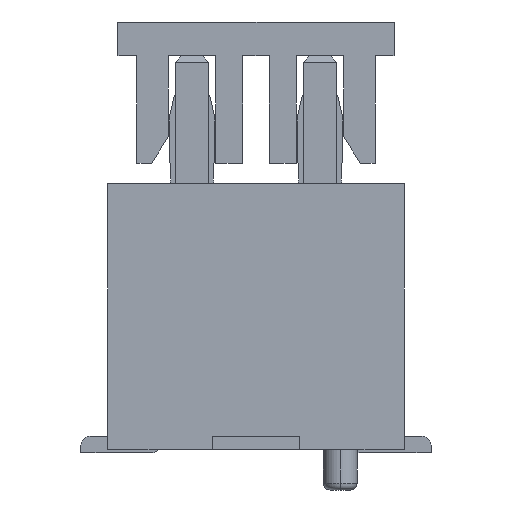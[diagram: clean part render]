
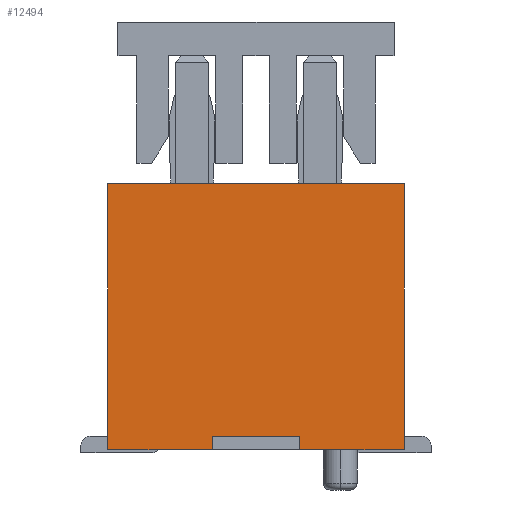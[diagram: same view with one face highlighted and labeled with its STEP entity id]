
A CAD part, left-side view. The second image highlights one B-rep face of the part: STEP entity #12494.
In plain terms, the highlighted planar face has unit normal (-1, 0, 0).
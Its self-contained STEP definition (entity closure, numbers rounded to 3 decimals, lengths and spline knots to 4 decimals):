
#3763 = DIRECTION ( 'NONE',  ( 0., 0., -1. ) ) ;
#7199 = CARTESIAN_POINT ( 'NONE',  ( -4.95, 0.65, 0.2 ) ) ;
#8090 = EDGE_CURVE ( 'NONE', #102275, #111845, #16602, .T. ) ;
#11107 = ORIENTED_EDGE ( 'NONE', *, *, #156515, .F. ) ;
#12494 = ADVANCED_FACE ( 'NONE', ( #159997 ), #39311, .F. ) ;
#14469 = DIRECTION ( 'NONE',  ( 0., 1., 0. ) ) ;
#15752 = CARTESIAN_POINT ( 'NONE',  ( -4.95, 2.2, 1.975 ) ) ;
#16602 = LINE ( 'NONE', #15752, #74517 ) ;
#19216 = CARTESIAN_POINT ( 'NONE',  ( -4.95, 0., 3.95 ) ) ;
#19660 = VERTEX_POINT ( 'NONE', #103955 ) ;
#25027 = EDGE_CURVE ( 'NONE', #111845, #35308, #141709, .T. ) ;
#34943 = EDGE_CURVE ( 'NONE', #35308, #122205, #151258, .T. ) ;
#35308 = VERTEX_POINT ( 'NONE', #149311 ) ;
#39311 = PLANE ( 'NONE',  #112086 ) ;
#39944 = EDGE_CURVE ( 'NONE', #19660, #102275, #150385, .T. ) ;
#41072 = CARTESIAN_POINT ( 'NONE',  ( -4.95, 0., 0. ) ) ;
#43400 = ORIENTED_EDGE ( 'NONE', *, *, #8090, .F. ) ;
#44579 = DIRECTION ( 'NONE',  ( 0., 1., 0. ) ) ;
#46377 = DIRECTION ( 'NONE',  ( 0., 1., 0. ) ) ;
#46810 = VERTEX_POINT ( 'NONE', #73108 ) ;
#52749 = ORIENTED_EDGE ( 'NONE', *, *, #34943, .F. ) ;
#53398 = CARTESIAN_POINT ( 'NONE',  ( -4.95, 2.2, 3.95 ) ) ;
#54240 = ORIENTED_EDGE ( 'NONE', *, *, #25027, .F. ) ;
#54540 = ORIENTED_EDGE ( 'NONE', *, *, #72554, .T. ) ;
#72554 = EDGE_CURVE ( 'NONE', #19660, #170908, #109969, .T. ) ;
#73108 = CARTESIAN_POINT ( 'NONE',  ( -4.95, -0.65, 0.2 ) ) ;
#73794 = DIRECTION ( 'NONE',  ( 0., -1., 0. ) ) ;
#74517 = VECTOR ( 'NONE', #110575, 1000. ) ;
#80564 = VECTOR ( 'NONE', #73794, 1000. ) ;
#81384 = CARTESIAN_POINT ( 'NONE',  ( -4.95, 0.65, 0.1 ) ) ;
#82202 = DIRECTION ( 'NONE',  ( 0., 1., 0. ) ) ;
#83368 = CARTESIAN_POINT ( 'NONE',  ( -4.95, 2.1, 0. ) ) ;
#84238 = EDGE_LOOP ( 'NONE', ( #108813, #54540, #141268, #102610, #11107, #52749, #54240, #43400 ) ) ;
#91552 = VERTEX_POINT ( 'NONE', #150153 ) ;
#94345 = VECTOR ( 'NONE', #138469, 1000. ) ;
#94807 = CARTESIAN_POINT ( 'NONE',  ( -4.95, 2.2, 0. ) ) ;
#95555 = VECTOR ( 'NONE', #3763, 1000. ) ;
#101549 = VECTOR ( 'NONE', #122447, 1000. ) ;
#102275 = VERTEX_POINT ( 'NONE', #94807 ) ;
#102610 = ORIENTED_EDGE ( 'NONE', *, *, #145972, .F. ) ;
#103955 = CARTESIAN_POINT ( 'NONE',  ( -4.95, 0.65, 0. ) ) ;
#105169 = VECTOR ( 'NONE', #46377, 1000. ) ;
#108813 = ORIENTED_EDGE ( 'NONE', *, *, #39944, .F. ) ;
#109934 = LINE ( 'NONE', #122416, #94345 ) ;
#109969 = LINE ( 'NONE', #81384, #101549 ) ;
#110575 = DIRECTION ( 'NONE',  ( 0., 0., 1. ) ) ;
#111845 = VERTEX_POINT ( 'NONE', #53398 ) ;
#112086 = AXIS2_PLACEMENT_3D ( 'NONE', #41072, #150102, #82202 ) ;
#113404 = CARTESIAN_POINT ( 'NONE',  ( -4.95, 0., 0.2 ) ) ;
#122205 = VERTEX_POINT ( 'NONE', #154014 ) ;
#122416 = CARTESIAN_POINT ( 'NONE',  ( -4.95, -0.65, 0.1 ) ) ;
#122447 = DIRECTION ( 'NONE',  ( 0., 0., 1. ) ) ;
#136658 = VECTOR ( 'NONE', #44579, 1000. ) ;
#136980 = CARTESIAN_POINT ( 'NONE',  ( -4.95, -2.2, 1.975 ) ) ;
#138469 = DIRECTION ( 'NONE',  ( 0., 0., 1. ) ) ;
#141268 = ORIENTED_EDGE ( 'NONE', *, *, #144934, .F. ) ;
#141709 = LINE ( 'NONE', #19216, #80564 ) ;
#144934 = EDGE_CURVE ( 'NONE', #46810, #170908, #167018, .T. ) ;
#145972 = EDGE_CURVE ( 'NONE', #91552, #46810, #109934, .T. ) ;
#149311 = CARTESIAN_POINT ( 'NONE',  ( -4.95, -2.2, 3.95 ) ) ;
#150102 = DIRECTION ( 'NONE',  ( 1., 0., 0. ) ) ;
#150153 = CARTESIAN_POINT ( 'NONE',  ( -4.95, -0.65, 0. ) ) ;
#150385 = LINE ( 'NONE', #83368, #157406 ) ;
#151258 = LINE ( 'NONE', #136980, #95555 ) ;
#153631 = CARTESIAN_POINT ( 'NONE',  ( -4.95, -1.325, 0. ) ) ;
#154014 = CARTESIAN_POINT ( 'NONE',  ( -4.95, -2.2, 0. ) ) ;
#156315 = LINE ( 'NONE', #153631, #105169 ) ;
#156515 = EDGE_CURVE ( 'NONE', #122205, #91552, #156315, .T. ) ;
#157406 = VECTOR ( 'NONE', #14469, 1000. ) ;
#159997 = FACE_OUTER_BOUND ( 'NONE', #84238, .T. ) ;
#167018 = LINE ( 'NONE', #113404, #136658 ) ;
#170908 = VERTEX_POINT ( 'NONE', #7199 ) ;
